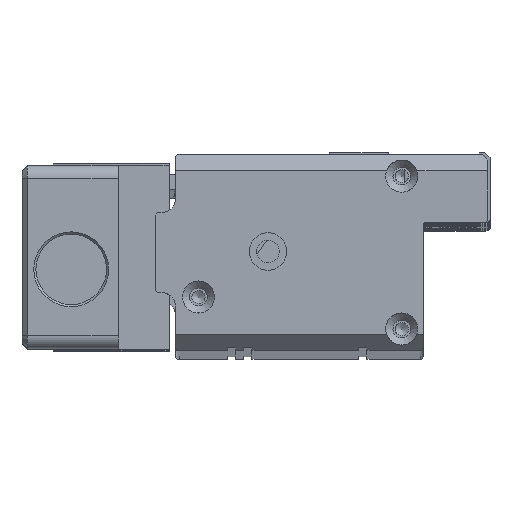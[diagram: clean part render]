
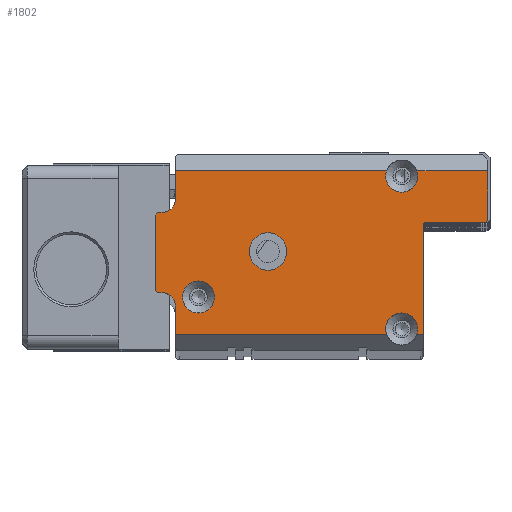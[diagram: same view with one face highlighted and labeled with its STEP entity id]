
A CAD part, top view. The second image highlights one B-rep face of the part: STEP entity #1802.
In plain terms, the highlighted planar face has unit normal (0, 0, 1).
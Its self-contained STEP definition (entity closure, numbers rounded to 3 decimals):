
#1802=ADVANCED_FACE('',(#2556,#2557,#2558),#2292,.T.);
#2292=PLANE('',#15221);
#2556=FACE_BOUND('',#3364,.T.);
#2557=FACE_BOUND('',#3365,.T.);
#2558=FACE_BOUND('',#3366,.T.);
#3364=EDGE_LOOP('',(#9690));
#3365=EDGE_LOOP('',(#9691,#9692,#9693,#9694,#9695,#9696,#9697,#9698,#9699,
#9700,#9701,#9702,#9703,#9704,#9705,#9706,#9707,#9708,#9709,#9710));
#3366=EDGE_LOOP('',(#9711));
#4656=LINE('',#23775,#5990);
#4657=LINE('',#23777,#5991);
#4658=LINE('',#23781,#5992);
#4659=LINE('',#23785,#5993);
#4660=LINE('',#23787,#5994);
#4661=LINE('',#23791,#5995);
#4662=LINE('',#23793,#5996);
#4663=LINE('',#23797,#5997);
#4664=LINE('',#23801,#5998);
#4665=LINE('',#23805,#5999);
#4666=LINE('',#23809,#6000);
#4667=LINE('',#23811,#6001);
#5990=VECTOR('',#18849,1.);
#5991=VECTOR('',#18850,1.);
#5992=VECTOR('',#18853,1.);
#5993=VECTOR('',#18856,1.);
#5994=VECTOR('',#18857,1.);
#5995=VECTOR('',#18860,1.);
#5996=VECTOR('',#18861,1.);
#5997=VECTOR('',#18864,1.);
#5998=VECTOR('',#18867,1.);
#5999=VECTOR('',#18870,1.);
#6000=VECTOR('',#18873,1.);
#6001=VECTOR('',#18874,1.);
#9690=ORIENTED_EDGE('',*,*,#13313,.T.);
#9691=ORIENTED_EDGE('',*,*,#13314,.T.);
#9692=ORIENTED_EDGE('',*,*,#13315,.T.);
#9693=ORIENTED_EDGE('',*,*,#13316,.T.);
#9694=ORIENTED_EDGE('',*,*,#13317,.T.);
#9695=ORIENTED_EDGE('',*,*,#13318,.T.);
#9696=ORIENTED_EDGE('',*,*,#13319,.T.);
#9697=ORIENTED_EDGE('',*,*,#13320,.T.);
#9698=ORIENTED_EDGE('',*,*,#13321,.T.);
#9699=ORIENTED_EDGE('',*,*,#13322,.T.);
#9700=ORIENTED_EDGE('',*,*,#13323,.T.);
#9701=ORIENTED_EDGE('',*,*,#13324,.T.);
#9702=ORIENTED_EDGE('',*,*,#13325,.T.);
#9703=ORIENTED_EDGE('',*,*,#13326,.T.);
#9704=ORIENTED_EDGE('',*,*,#13327,.T.);
#9705=ORIENTED_EDGE('',*,*,#13328,.T.);
#9706=ORIENTED_EDGE('',*,*,#13329,.T.);
#9707=ORIENTED_EDGE('',*,*,#13330,.T.);
#9708=ORIENTED_EDGE('',*,*,#13331,.T.);
#9709=ORIENTED_EDGE('',*,*,#13332,.T.);
#9710=ORIENTED_EDGE('',*,*,#13333,.T.);
#9711=ORIENTED_EDGE('',*,*,#13334,.T.);
#11377=VERTEX_POINT('',#23771);
#11378=VERTEX_POINT('',#23773);
#11379=VERTEX_POINT('',#23774);
#11380=VERTEX_POINT('',#23776);
#11381=VERTEX_POINT('',#23778);
#11382=VERTEX_POINT('',#23780);
#11383=VERTEX_POINT('',#23782);
#11384=VERTEX_POINT('',#23784);
#11385=VERTEX_POINT('',#23786);
#11386=VERTEX_POINT('',#23788);
#11387=VERTEX_POINT('',#23790);
#11388=VERTEX_POINT('',#23792);
#11389=VERTEX_POINT('',#23794);
#11390=VERTEX_POINT('',#23796);
#11391=VERTEX_POINT('',#23798);
#11392=VERTEX_POINT('',#23800);
#11393=VERTEX_POINT('',#23802);
#11394=VERTEX_POINT('',#23804);
#11395=VERTEX_POINT('',#23806);
#11396=VERTEX_POINT('',#23808);
#11397=VERTEX_POINT('',#23810);
#11398=VERTEX_POINT('',#23813);
#13313=EDGE_CURVE('',#11377,#11377,#13998,.T.);
#13314=EDGE_CURVE('',#11378,#11379,#13999,.T.);
#13315=EDGE_CURVE('',#11379,#11380,#4656,.T.);
#13316=EDGE_CURVE('',#11380,#11381,#4657,.T.);
#13317=EDGE_CURVE('',#11381,#11382,#14000,.T.);
#13318=EDGE_CURVE('',#11382,#11383,#4658,.T.);
#13319=EDGE_CURVE('',#11383,#11384,#14001,.T.);
#13320=EDGE_CURVE('',#11384,#11385,#4659,.T.);
#13321=EDGE_CURVE('',#11385,#11386,#4660,.T.);
#13322=EDGE_CURVE('',#11386,#11387,#14002,.T.);
#13323=EDGE_CURVE('',#11387,#11388,#4661,.T.);
#13324=EDGE_CURVE('',#11388,#11389,#4662,.T.);
#13325=EDGE_CURVE('',#11389,#11390,#14003,.T.);
#13326=EDGE_CURVE('',#11390,#11391,#4663,.T.);
#13327=EDGE_CURVE('',#11391,#11392,#14004,.T.);
#13328=EDGE_CURVE('',#11392,#11393,#4664,.T.);
#13329=EDGE_CURVE('',#11393,#11394,#14005,.T.);
#13330=EDGE_CURVE('',#11394,#11395,#4665,.T.);
#13331=EDGE_CURVE('',#11395,#11396,#14006,.T.);
#13332=EDGE_CURVE('',#11396,#11397,#4666,.T.);
#13333=EDGE_CURVE('',#11397,#11378,#4667,.T.);
#13334=EDGE_CURVE('',#11398,#11398,#14007,.T.);
#13998=CIRCLE('',#15211,3.);
#13999=CIRCLE('',#15212,3.);
#14000=CIRCLE('',#15213,0.5);
#14001=CIRCLE('',#15214,0.5);
#14002=CIRCLE('',#15215,3.);
#14003=CIRCLE('',#15216,2.5);
#14004=CIRCLE('',#15217,0.5);
#14005=CIRCLE('',#15218,0.5);
#14006=CIRCLE('',#15219,2.5);
#14007=CIRCLE('',#15220,3.5);
#15211=AXIS2_PLACEMENT_3D('',#23770,#18845,#18846);
#15212=AXIS2_PLACEMENT_3D('',#23772,#18847,#18848);
#15213=AXIS2_PLACEMENT_3D('',#23779,#18851,#18852);
#15214=AXIS2_PLACEMENT_3D('',#23783,#18854,#18855);
#15215=AXIS2_PLACEMENT_3D('',#23789,#18858,#18859);
#15216=AXIS2_PLACEMENT_3D('',#23795,#18862,#18863);
#15217=AXIS2_PLACEMENT_3D('',#23799,#18865,#18866);
#15218=AXIS2_PLACEMENT_3D('',#23803,#18868,#18869);
#15219=AXIS2_PLACEMENT_3D('',#23807,#18871,#18872);
#15220=AXIS2_PLACEMENT_3D('',#23812,#18875,#18876);
#15221=AXIS2_PLACEMENT_3D('',#23814,#18877,#18878);
#18845=DIRECTION('',(0.,0.,-1.));
#18846=DIRECTION('',(-1.,0.,0.));
#18847=DIRECTION('',(0.,0.,-1.));
#18848=DIRECTION('',(-1.,0.,0.));
#18849=DIRECTION('',(1.,0.,0.));
#18850=DIRECTION('',(0.,1.,0.));
#18851=DIRECTION('',(0.,0.,-1.));
#18852=DIRECTION('',(1.,0.,0.));
#18853=DIRECTION('',(1.,0.,0.));
#18854=DIRECTION('',(0.,0.,1.));
#18855=DIRECTION('',(1.,0.,0.));
#18856=DIRECTION('',(0.,1.,0.));
#18857=DIRECTION('',(-1.,0.,0.));
#18858=DIRECTION('',(0.,0.,-1.));
#18859=DIRECTION('',(-1.,0.,0.));
#18860=DIRECTION('',(-1.,0.,0.));
#18861=DIRECTION('',(0.,-1.,0.));
#18862=DIRECTION('',(0.,0.,-1.));
#18863=DIRECTION('',(1.,0.,0.));
#18864=DIRECTION('',(-1.,0.,0.));
#18865=DIRECTION('',(0.,0.,1.));
#18866=DIRECTION('',(1.,0.,0.));
#18867=DIRECTION('',(0.,-1.,0.));
#18868=DIRECTION('',(0.,0.,1.));
#18869=DIRECTION('',(1.,0.,0.));
#18870=DIRECTION('',(1.,0.,0.));
#18871=DIRECTION('',(0.,0.,-1.));
#18872=DIRECTION('',(1.,0.,0.));
#18873=DIRECTION('',(0.,-1.,0.));
#18874=DIRECTION('',(1.,0.,0.));
#18875=DIRECTION('',(0.,0.,-1.));
#18876=DIRECTION('',(-1.,0.,0.));
#18877=DIRECTION('',(0.,0.,1.));
#18878=DIRECTION('',(-1.,0.,0.));
#23770=CARTESIAN_POINT('',(8.,-26.6,8.));
#23771=CARTESIAN_POINT('',(5.,-26.6,8.));
#23772=CARTESIAN_POINT('',(46.,-32.6,8.));
#23773=CARTESIAN_POINT('',(43.172,-33.6,8.));
#23774=CARTESIAN_POINT('',(48.828,-33.6,8.));
#23775=CARTESIAN_POINT('',(50.,-33.6,8.));
#23776=CARTESIAN_POINT('',(50.,-33.6,8.));
#23777=CARTESIAN_POINT('',(50.,-36.6,8.));
#23778=CARTESIAN_POINT('',(50.,-13.1,8.));
#23779=CARTESIAN_POINT('',(50.5,-13.1,8.));
#23780=CARTESIAN_POINT('',(50.5,-12.6,8.));
#23781=CARTESIAN_POINT('',(50.,-12.6,8.));
#23782=CARTESIAN_POINT('',(61.6,-12.6,8.));
#23783=CARTESIAN_POINT('',(61.6,-12.1,8.));
#23784=CARTESIAN_POINT('',(62.1,-12.1,8.));
#23785=CARTESIAN_POINT('',(62.1,-12.6,8.));
#23786=CARTESIAN_POINT('',(62.1,-3.,8.));
#23787=CARTESIAN_POINT('',(3.7,-3.,8.));
#23788=CARTESIAN_POINT('',(48.828,-3.,8.));
#23789=CARTESIAN_POINT('',(46.,-4.,8.));
#23790=CARTESIAN_POINT('',(43.172,-3.,8.));
#23791=CARTESIAN_POINT('',(3.7,-3.,8.));
#23792=CARTESIAN_POINT('',(3.7,-3.,8.));
#23793=CARTESIAN_POINT('',(3.7,0.,8.));
#23794=CARTESIAN_POINT('',(3.7,-8.3,8.));
#23795=CARTESIAN_POINT('',(1.2,-8.3,8.));
#23796=CARTESIAN_POINT('',(1.2,-10.8,8.));
#23797=CARTESIAN_POINT('',(3.7,-10.8,8.));
#23798=CARTESIAN_POINT('',(0.5,-10.8,8.));
#23799=CARTESIAN_POINT('',(0.5,-11.3,8.));
#23800=CARTESIAN_POINT('',(0.,-11.3,8.));
#23801=CARTESIAN_POINT('',(0.,-10.8,8.));
#23802=CARTESIAN_POINT('',(0.,-25.3,8.));
#23803=CARTESIAN_POINT('',(0.5,-25.3,8.));
#23804=CARTESIAN_POINT('',(0.5,-25.8,8.));
#23805=CARTESIAN_POINT('',(0.,-25.8,8.));
#23806=CARTESIAN_POINT('',(1.2,-25.8,8.));
#23807=CARTESIAN_POINT('',(1.2,-28.3,8.));
#23808=CARTESIAN_POINT('',(3.7,-28.3,8.));
#23809=CARTESIAN_POINT('',(3.7,-25.8,8.));
#23810=CARTESIAN_POINT('',(3.7,-33.6,8.));
#23811=CARTESIAN_POINT('',(50.,-33.6,8.));
#23812=CARTESIAN_POINT('',(21.,-18.1,8.));
#23813=CARTESIAN_POINT('',(17.5,-18.1,8.));
#23814=CARTESIAN_POINT('',(0.,0.,8.));
